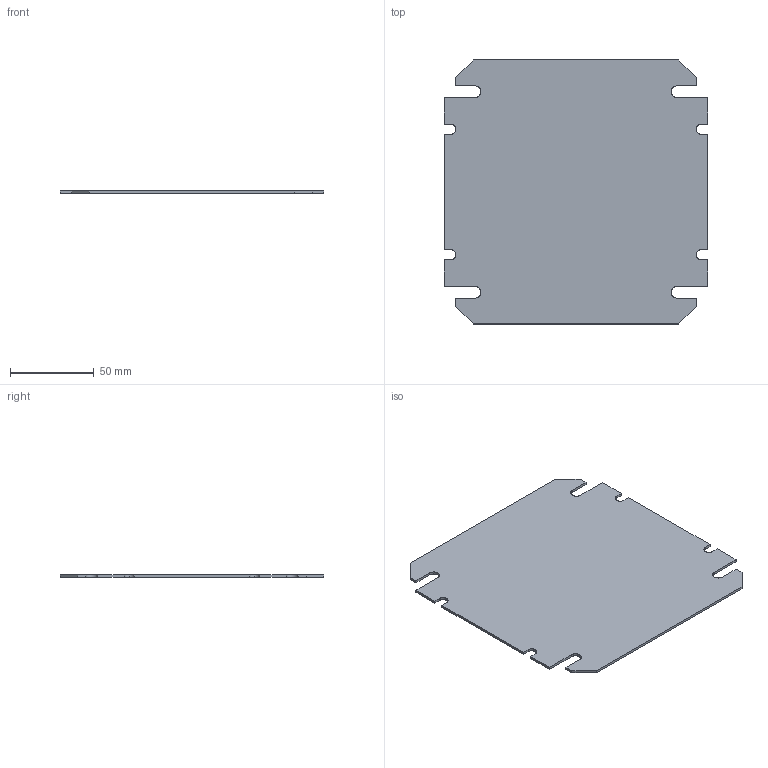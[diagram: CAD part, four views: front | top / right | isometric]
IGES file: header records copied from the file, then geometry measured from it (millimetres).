
Start section: SolidWorks IGES file using analytic representation for surfaces
Global section: file name: G:\3DRAW\EK\3DCAM\Asennuslevy\EKHVT.IGS; native system: SolidWorks 2019; preprocessor: SolidWorks 2019; author: KennethW; date: 190917.103002; units: millimetre
Bounding box: 158 x 158 x 1.5 mm (x, y, z)
Surface area: 48265.6 mm2 (no closed solid volume)
Topology: 0 solids, 0 shells, 46 faces, 496 edges, 496 vertices
Faces by surface type: bspline 34, revolution 12
